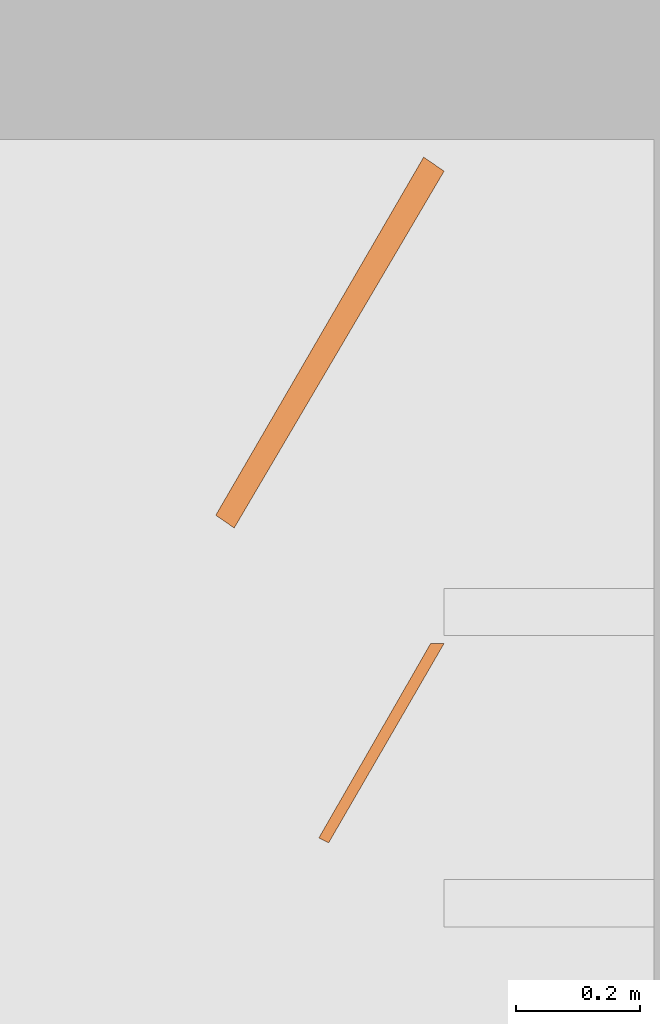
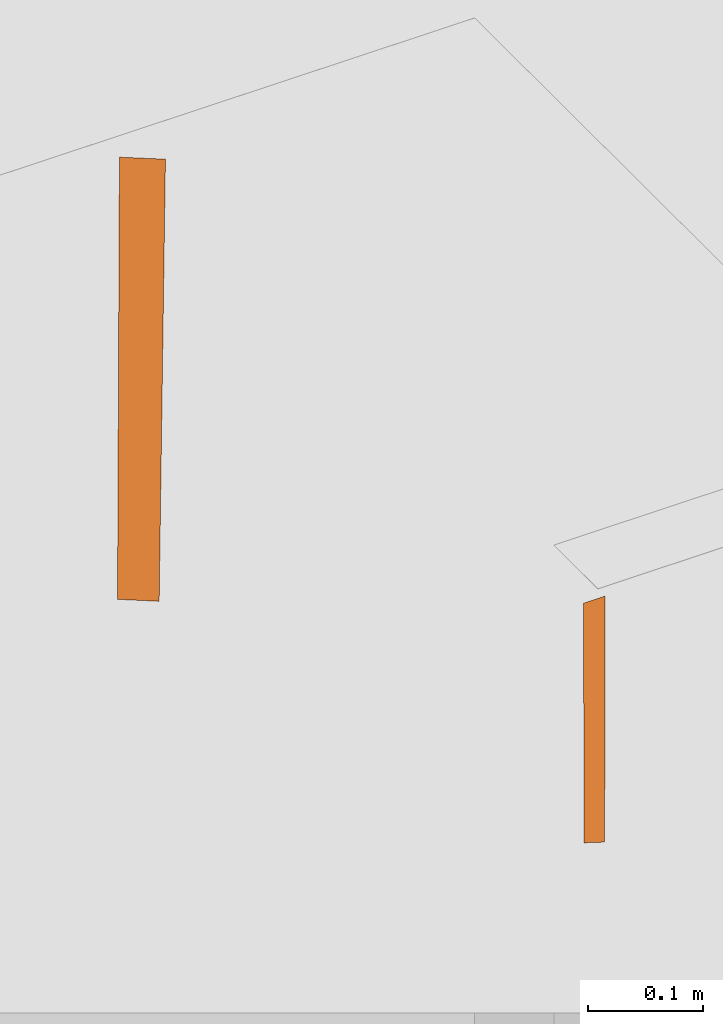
# Not in any storey, part 22 of 22: 2 proxies.
"""IFC4 model written with IfcOpenShell, lengths in metres."""

from ifc_helpers import new_model, si_unit, direction, origin_with_axes, place, context, subcontext, project, faceted_brep, element, save


model = new_model("IFC4")

# Units and contexts
model_context = context("Model", 3, precision=1e-05, world=origin_with_axes(), true_north=direction((1.0, 0.0)))
body_context = subcontext(model_context, "Body", "Model", "MODEL_VIEW")
ifc_project = project(units=[si_unit("LENGTHUNIT", "METRE"), si_unit("AREAUNIT", "SQUARE_METRE"), si_unit("VOLUMEUNIT", "CUBIC_METRE"), si_unit("MASSUNIT", "GRAM", prefix="KILO"), si_unit("TIMEUNIT", "SECOND"), si_unit("PLANEANGLEUNIT", "RADIAN"), si_unit("SOLIDANGLEUNIT", "STERADIAN")], contexts=[model_context])

# Proxies
placement = place(None, origin_with_axes())
element("IfcBuildingElementProxy", 1, at=placement, Name="Undefined", PredefinedType="NOTDEFINED", context=body_context, shape_type="Brep", body=[
    faceted_brep([(147.574021, 22.727982, 2.31), (147.558104, 22.73587, 2.31), (147.738552, 23.04969, 2.31), (147.760273, 23.04969, 2.31)], [[[0, 1, 2, 3]]]),
])
element("IfcBuildingElementProxy", 2, at=placement, Name="Undefined", PredefinedType="NOTDEFINED", context=body_context, shape_type="Brep", body=[
    faceted_brep([(147.421633, 23.235943, 2.31), (147.391858, 23.256542, 2.31), (147.72727, 23.83423, 2.31), (147.760273, 23.811628, 2.31)], [[[0, 1, 2, 3]]]),
])

save(model, "model.ifc")
